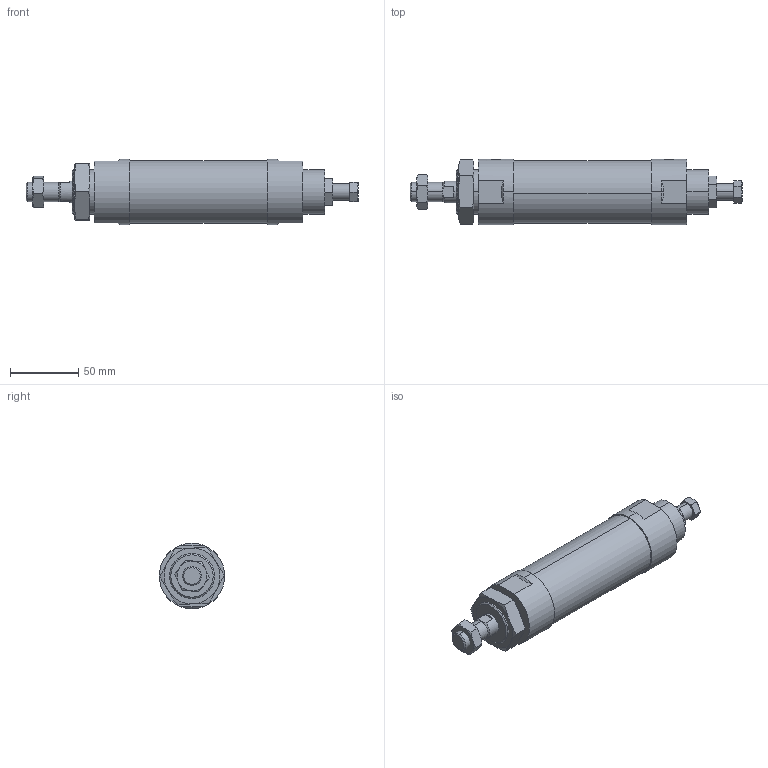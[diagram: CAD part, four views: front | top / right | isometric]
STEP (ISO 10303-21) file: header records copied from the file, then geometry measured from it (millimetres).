
FILE_DESCRIPTION (( 'STEP AP203' ), '1' );
FILE_NAME ('JGA2-40-50-N.STEP', '2016-04-20T05:09:59', ( '' ), ( '' ), 'SwSTEP 2.0', 'SolidWorks 2014', '' );
FILE_SCHEMA (( 'CONFIG_CONTROL_DESIGN' ));
Length unit declared in the file: millimetre
Products named in the file (6): JGA2-40A; 40-50; JGLH2-40B; JGA2-40-50-N; M14x1.5-8mm; M33x2-11mm
Assembly tree (5 placements, depth 2):
  JGA2-40-50-N
    JGLH2-40B
    40-50
    JGA2-40A
    M14x1.5-8mm
    M33x2-11mm
Bounding box: 243.5 x 48 x 48 mm (x, y, z)
Volume: 305377.9 mm3; surface area: 45649.6 mm2
Topology: 5 solids, 5 shells, 124 faces, 274 edges, 164 vertices
Faces by surface type: plane 48, torus 36, cylinder 24, cone 16
Entity records: 4664 total; most frequent: CARTESIAN_POINT 1416, DIRECTION 544, ORIENTED_EDGE 540, EDGE_CURVE 270, AXIS2_PLACEMENT_3D 228, VERTEX_POINT 164, EDGE_LOOP 136, ADVANCED_FACE 124
